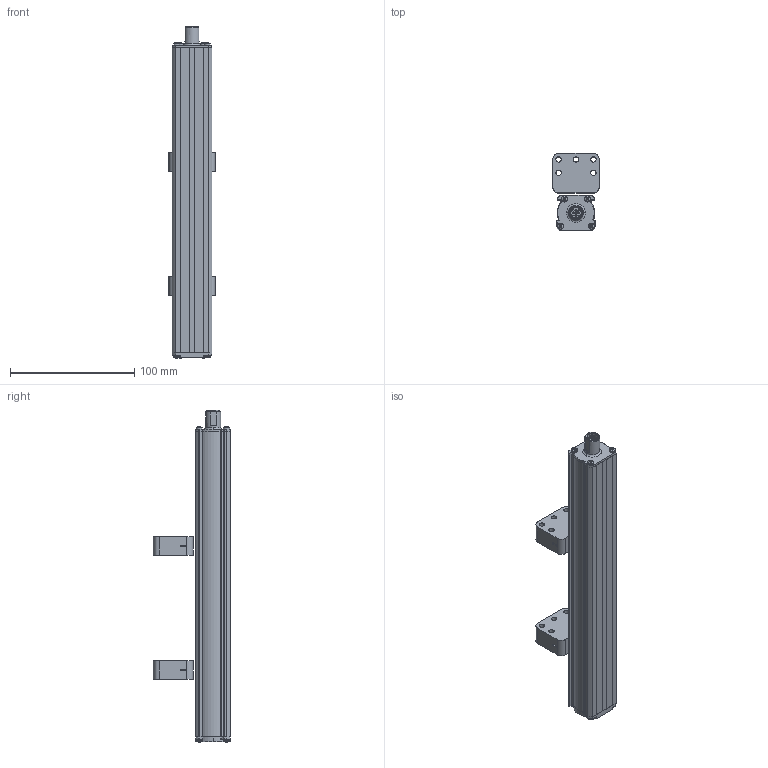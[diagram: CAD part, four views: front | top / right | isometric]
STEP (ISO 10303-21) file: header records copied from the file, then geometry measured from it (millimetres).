
FILE_DESCRIPTION (( 'STEP AP203' ), '1' );
FILE_NAME ('WPP-A-A-0100.STEP', '2019-03-21T14:51:53', ( '' ), ( '' ), 'SwSTEP 2.0', 'SolidWorks 2019', '' );
FILE_SCHEMA (( 'CONFIG_CONTROL_DESIGN' ));
Length unit declared in the file: millimetre
Products named in the file (8): PCUR202x; WPP-A-A-0100; CUS2200x_Rev 2; TES652x_REV.1; MIM679_ISO 7045 - M2.5 x 8 - Z --- 8S; PTES950x; CON037; TES679x_Rev 1
Assembly tree (19 placements, depth 3):
  WPP-A-A-0100
    MIM679_ISO 7045 - M2.5 x 8 - Z --- 8S  x10
    TES679x_Rev 1
    CUS2200x_Rev 2
    PTES950x
      MIM679_ISO 7045 - M2.5 x 8 - Z --- 8S  x2
      CON037
      TES652x_REV.1
    PCUR202x  x2
Bounding box: 38.6 x 62.25 x 267.55 mm (x, y, z)
Volume: 232371.9 mm3; surface area: 59176.5 mm2
Topology: 18 solids, 20 shells, 2122 faces, 5491 edges, 3417 vertices
Faces by surface type: cone 955, cylinder 619, plane 456, torus 50, sphere 24, bspline 18
Entity records: 17781 total; most frequent: CARTESIAN_POINT 3165, DIRECTION 3048, ORIENTED_EDGE 2718, EDGE_CURVE 1359, AXIS2_PLACEMENT_3D 1188, VERTEX_POINT 877, LINE 672, VECTOR 672
